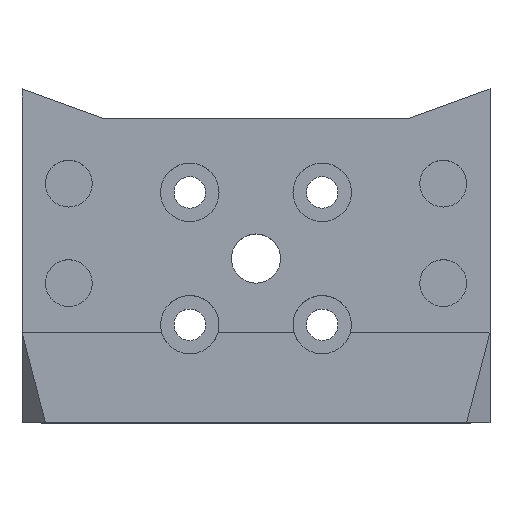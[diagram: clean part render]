
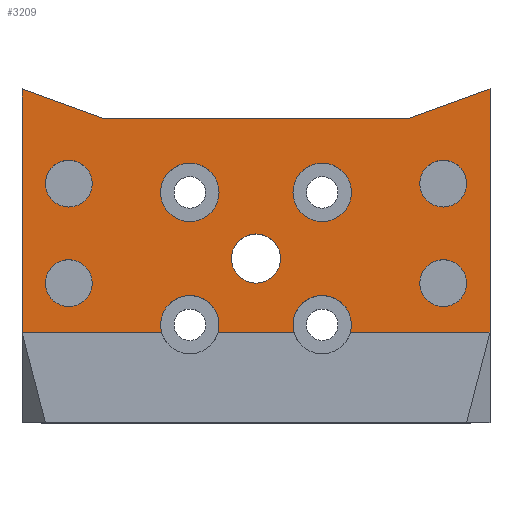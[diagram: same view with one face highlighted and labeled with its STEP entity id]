
A CAD part, top view. The second image highlights one B-rep face of the part: STEP entity #3209.
In plain terms, the highlighted planar face has unit normal (0, 0, 1).
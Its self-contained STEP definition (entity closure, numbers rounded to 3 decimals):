
#233=CIRCLE('',#3469,2.5);
#236=CIRCLE('',#3474,2.5);
#237=CIRCLE('',#3476,2.1);
#238=CIRCLE('',#3482,2.);
#239=CIRCLE('',#3483,2.);
#240=CIRCLE('',#3484,2.);
#241=CIRCLE('',#3485,2.);
#242=CIRCLE('',#3486,2.5);
#243=CIRCLE('',#3487,2.5);
#570=ORIENTED_EDGE('',*,*,#1477,.T.);
#571=ORIENTED_EDGE('',*,*,#1478,.T.);
#572=ORIENTED_EDGE('',*,*,#1479,.T.);
#573=ORIENTED_EDGE('',*,*,#1480,.T.);
#574=ORIENTED_EDGE('',*,*,#1468,.T.);
#575=ORIENTED_EDGE('',*,*,#1293,.T.);
#576=ORIENTED_EDGE('',*,*,#1481,.T.);
#577=ORIENTED_EDGE('',*,*,#1476,.T.);
#578=ORIENTED_EDGE('',*,*,#1482,.T.);
#579=ORIENTED_EDGE('',*,*,#1483,.T.);
#580=ORIENTED_EDGE('',*,*,#1484,.T.);
#581=ORIENTED_EDGE('',*,*,#1485,.T.);
#582=ORIENTED_EDGE('',*,*,#1472,.T.);
#583=ORIENTED_EDGE('',*,*,#1464,.T.);
#584=ORIENTED_EDGE('',*,*,#1471,.T.);
#585=ORIENTED_EDGE('',*,*,#1467,.T.);
#586=ORIENTED_EDGE('',*,*,#1486,.T.);
#1293=EDGE_CURVE('',#1770,#1769,#2086,.T.);
#1464=EDGE_CURVE('',#1913,#1914,#233,.T.);
#1467=EDGE_CURVE('',#1917,#1917,#236,.T.);
#1468=EDGE_CURVE('',#1918,#1918,#237,.T.);
#1471=EDGE_CURVE('',#1914,#1770,#2143,.T.);
#1472=EDGE_CURVE('',#1919,#1913,#2144,.T.);
#1476=EDGE_CURVE('',#1920,#1921,#2148,.T.);
#1477=EDGE_CURVE('',#1922,#1922,#238,.T.);
#1478=EDGE_CURVE('',#1923,#1923,#239,.T.);
#1479=EDGE_CURVE('',#1924,#1924,#240,.T.);
#1480=EDGE_CURVE('',#1925,#1925,#241,.T.);
#1481=EDGE_CURVE('',#1769,#1920,#2149,.T.);
#1482=EDGE_CURVE('',#1921,#1926,#2150,.T.);
#1483=EDGE_CURVE('',#1926,#1927,#2151,.F.);
#1484=EDGE_CURVE('',#1927,#1928,#2152,.F.);
#1485=EDGE_CURVE('',#1928,#1919,#242,.F.);
#1486=EDGE_CURVE('',#1929,#1929,#243,.F.);
#1769=VERTEX_POINT('',#4749);
#1770=VERTEX_POINT('',#4751);
#1913=VERTEX_POINT('',#5417);
#1914=VERTEX_POINT('',#5419);
#1917=VERTEX_POINT('',#5428);
#1918=VERTEX_POINT('',#5431);
#1919=VERTEX_POINT('',#5567);
#1920=VERTEX_POINT('',#5571);
#1921=VERTEX_POINT('',#5573);
#1922=VERTEX_POINT('',#5577);
#1923=VERTEX_POINT('',#5579);
#1924=VERTEX_POINT('',#5581);
#1925=VERTEX_POINT('',#5583);
#1926=VERTEX_POINT('',#5586);
#1927=VERTEX_POINT('',#5588);
#1928=VERTEX_POINT('',#5590);
#1929=VERTEX_POINT('',#5593);
#2086=LINE('',#4750,#2358);
#2143=LINE('',#5564,#2415);
#2144=LINE('',#5566,#2416);
#2148=LINE('',#5574,#2420);
#2149=LINE('',#5584,#2421);
#2150=LINE('',#5585,#2422);
#2151=LINE('',#5587,#2423);
#2152=LINE('',#5589,#2424);
#2358=VECTOR('',#3753,1000.);
#2415=VECTOR('',#4016,1000.);
#2416=VECTOR('',#4019,1000.);
#2420=VECTOR('',#4025,1000.);
#2421=VECTOR('',#4036,1000.);
#2422=VECTOR('',#4037,1000.);
#2423=VECTOR('',#4038,1000.);
#2424=VECTOR('',#4039,1000.);
#2643=EDGE_LOOP('',(#570));
#2644=EDGE_LOOP('',(#571));
#2645=EDGE_LOOP('',(#572));
#2646=EDGE_LOOP('',(#573));
#2647=EDGE_LOOP('',(#574));
#2648=EDGE_LOOP('',(#575,#576,#577,#578,#579,#580,#581,#582,#583,#584));
#2649=EDGE_LOOP('',(#585));
#2650=EDGE_LOOP('',(#586));
#2878=FACE_BOUND('',#2643,.T.);
#2879=FACE_BOUND('',#2644,.T.);
#2880=FACE_BOUND('',#2645,.T.);
#2881=FACE_BOUND('',#2646,.T.);
#2882=FACE_BOUND('',#2647,.T.);
#2883=FACE_BOUND('',#2648,.T.);
#2884=FACE_BOUND('',#2649,.T.);
#2885=FACE_BOUND('',#2650,.T.);
#3072=PLANE('',#3481);
#3209=ADVANCED_FACE('',(#2878,#2879,#2880,#2881,#2882,#2883,#2884,#2885),
#3072,.F.);
#3469=AXIS2_PLACEMENT_3D('',#5420,#3996,#3997);
#3474=AXIS2_PLACEMENT_3D('',#5427,#4006,#4007);
#3476=AXIS2_PLACEMENT_3D('',#5430,#4010,#4011);
#3481=AXIS2_PLACEMENT_3D('',#5575,#4026,#4027);
#3482=AXIS2_PLACEMENT_3D('',#5576,#4028,#4029);
#3483=AXIS2_PLACEMENT_3D('',#5578,#4030,#4031);
#3484=AXIS2_PLACEMENT_3D('',#5580,#4032,#4033);
#3485=AXIS2_PLACEMENT_3D('',#5582,#4034,#4035);
#3486=AXIS2_PLACEMENT_3D('',#5591,#4040,#4041);
#3487=AXIS2_PLACEMENT_3D('',#5592,#4042,#4043);
#3753=DIRECTION('',(0.,1.,0.));
#3996=DIRECTION('',(0.,0.,-1.));
#3997=DIRECTION('',(0.,1.,0.));
#4006=DIRECTION('',(0.,0.,-1.));
#4007=DIRECTION('',(0.,1.,0.));
#4010=DIRECTION('',(0.,0.,-1.));
#4011=DIRECTION('',(0.,1.,0.));
#4016=DIRECTION('',(1.,0.,0.));
#4019=DIRECTION('',(1.,0.,0.));
#4025=DIRECTION('',(-1.,0.,0.));
#4026=DIRECTION('',(0.,0.,-1.));
#4027=DIRECTION('',(0.,1.,0.));
#4028=DIRECTION('',(0.,0.,-1.));
#4029=DIRECTION('',(0.,1.,0.));
#4030=DIRECTION('',(0.,0.,-1.));
#4031=DIRECTION('',(0.,1.,0.));
#4032=DIRECTION('',(0.,0.,-1.));
#4033=DIRECTION('',(0.,1.,0.));
#4034=DIRECTION('',(0.,0.,-1.));
#4035=DIRECTION('',(0.,1.,0.));
#4036=DIRECTION('',(-0.94,-0.342,0.));
#4037=DIRECTION('',(-0.94,0.342,0.));
#4038=DIRECTION('',(0.,1.,0.));
#4039=DIRECTION('',(-1.,0.,0.));
#4040=DIRECTION('',(0.,0.,1.));
#4041=DIRECTION('',(0.,1.,0.));
#4042=DIRECTION('',(0.,0.,1.));
#4043=DIRECTION('',(0.,1.,0.));
#4749=CARTESIAN_POINT('',(20.,-7.509,18.998));
#4750=CARTESIAN_POINT('',(20.,-28.2,18.998));
#4751=CARTESIAN_POINT('',(20.,-28.3,18.998));
#5417=CARTESIAN_POINT('',(3.241,-28.3,18.998));
#5419=CARTESIAN_POINT('',(8.073,-28.3,18.998));
#5420=CARTESIAN_POINT('',(5.657,-27.657,18.998));
#5427=CARTESIAN_POINT('',(5.657,-16.343,18.998));
#5428=CARTESIAN_POINT('',(5.657,-13.843,18.998));
#5430=CARTESIAN_POINT('',(0.,-22.,18.998));
#5431=CARTESIAN_POINT('',(0.,-19.9,18.998));
#5564=CARTESIAN_POINT('',(-18.95,-28.3,18.998));
#5566=CARTESIAN_POINT('',(-18.95,-28.3,18.998));
#5567=CARTESIAN_POINT('',(-3.241,-28.3,18.998));
#5571=CARTESIAN_POINT('',(13.157,-10.,18.998));
#5573=CARTESIAN_POINT('',(-13.157,-10.,18.998));
#5574=CARTESIAN_POINT('',(-18.95,-10.,18.998));
#5575=CARTESIAN_POINT('',(-18.95,-28.2,18.998));
#5576=CARTESIAN_POINT('',(16.,-15.6,18.998));
#5577=CARTESIAN_POINT('',(16.,-13.6,18.998));
#5578=CARTESIAN_POINT('',(16.,-24.1,18.998));
#5579=CARTESIAN_POINT('',(16.,-22.1,18.998));
#5580=CARTESIAN_POINT('',(-16.,-15.6,18.998));
#5581=CARTESIAN_POINT('',(-16.,-13.6,18.998));
#5582=CARTESIAN_POINT('',(-16.,-24.1,18.998));
#5583=CARTESIAN_POINT('',(-16.,-22.1,18.998));
#5584=CARTESIAN_POINT('',(19.199,-7.801,18.998));
#5585=CARTESIAN_POINT('',(-13.157,-10.,18.998));
#5586=CARTESIAN_POINT('',(-20.,-7.509,18.998));
#5587=CARTESIAN_POINT('',(-20.,-28.2,18.998));
#5588=CARTESIAN_POINT('',(-20.,-28.3,18.998));
#5589=CARTESIAN_POINT('',(18.95,-28.3,18.998));
#5590=CARTESIAN_POINT('',(-8.073,-28.3,18.998));
#5591=CARTESIAN_POINT('',(-5.657,-27.657,18.998));
#5592=CARTESIAN_POINT('',(-5.657,-16.343,18.998));
#5593=CARTESIAN_POINT('',(-5.657,-13.843,18.998));
